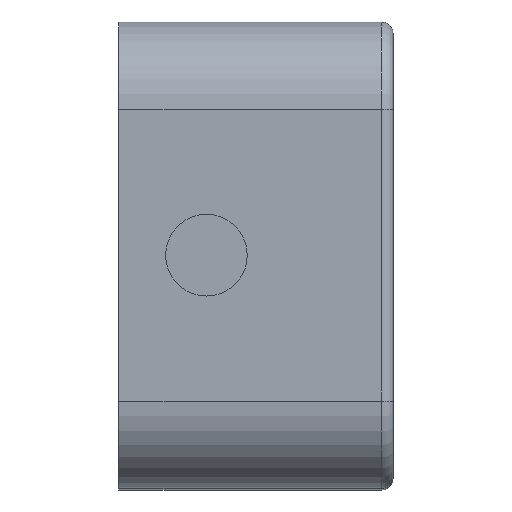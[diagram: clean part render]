
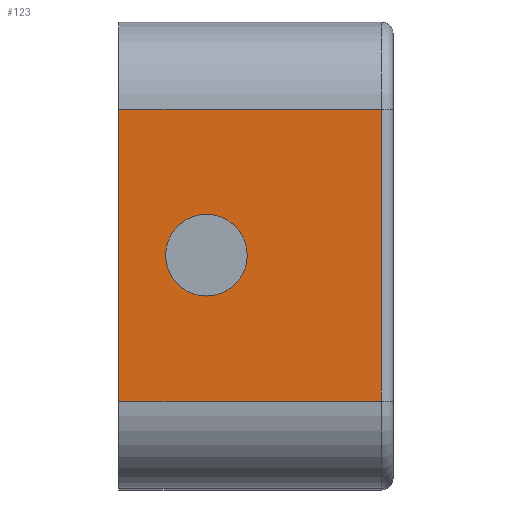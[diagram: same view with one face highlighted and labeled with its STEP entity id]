
A CAD part, top view. The second image highlights one B-rep face of the part: STEP entity #123.
In plain terms, the highlighted planar face has unit normal (0, 0, 1).
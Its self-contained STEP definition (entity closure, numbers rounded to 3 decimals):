
#123 = ADVANCED_FACE( '', ( #266, #267 ), #268, .T. );
#266 = FACE_BOUND( '', #427, .T. );
#267 = FACE_OUTER_BOUND( '', #428, .T. );
#268 = PLANE( '', #429 );
#427 = EDGE_LOOP( '', ( #706 ) );
#428 = EDGE_LOOP( '', ( #707, #708, #709, #710 ) );
#429 = AXIS2_PLACEMENT_3D( '', #711, #712, #713 );
#706 = ORIENTED_EDGE( '', *, *, #977, .F. );
#707 = ORIENTED_EDGE( '', *, *, #979, .T. );
#708 = ORIENTED_EDGE( '', *, *, #980, .T. );
#709 = ORIENTED_EDGE( '', *, *, #972, .T. );
#710 = ORIENTED_EDGE( '', *, *, #981, .F. );
#711 = CARTESIAN_POINT( '', ( 0., -4., 4. ) );
#712 = DIRECTION( '', ( 0., 0., 1. ) );
#713 = DIRECTION( '', ( -1., 0., 0. ) );
#972 = EDGE_CURVE( '', #1131, #1188, #1189, .T. );
#977 = EDGE_CURVE( '', #1196, #1196, #1197, .T. );
#979 = EDGE_CURVE( '', #1199, #1200, #1201, .F. );
#980 = EDGE_CURVE( '', #1200, #1131, #1202, .T. );
#981 = EDGE_CURVE( '', #1199, #1188, #1203, .T. );
#1131 = VERTEX_POINT( '', #1425 );
#1188 = VERTEX_POINT( '', #1503 );
#1189 = LINE( '', #1504, #1505 );
#1196 = VERTEX_POINT( '', #1513 );
#1197 = CIRCLE( '', #1514, 0.7 );
#1199 = VERTEX_POINT( '', #1516 );
#1200 = VERTEX_POINT( '', #1517 );
#1201 = LINE( '', #1518, #1519 );
#1202 = LINE( '', #1520, #1521 );
#1203 = LINE( '', #1522, #1523 );
#1425 = CARTESIAN_POINT( '', ( -0.2, 2.5, 4. ) );
#1503 = CARTESIAN_POINT( '', ( -4.7, 2.5, 4. ) );
#1504 = CARTESIAN_POINT( '', ( 0., 2.5, 4. ) );
#1505 = VECTOR( '', #1748, 1000. );
#1513 = CARTESIAN_POINT( '', ( -3.2, 0.7, 4. ) );
#1514 = AXIS2_PLACEMENT_3D( '', #1756, #1757, #1758 );
#1516 = CARTESIAN_POINT( '', ( -4.7, -2.5, 4. ) );
#1517 = CARTESIAN_POINT( '', ( -0.2, -2.5, 4. ) );
#1518 = CARTESIAN_POINT( '', ( 0., -2.5, 4. ) );
#1519 = VECTOR( '', #1759, 1000. );
#1520 = CARTESIAN_POINT( '', ( -0.2, 2.5, 4. ) );
#1521 = VECTOR( '', #1760, 1000. );
#1522 = CARTESIAN_POINT( '', ( -4.7, -4., 4. ) );
#1523 = VECTOR( '', #1761, 1000. );
#1748 = DIRECTION( '', ( -1., 0., 0. ) );
#1756 = CARTESIAN_POINT( '', ( -3.2, 0., 4. ) );
#1757 = DIRECTION( '', ( 0., 0., 1. ) );
#1758 = DIRECTION( '', ( 0., 1., 0. ) );
#1759 = DIRECTION( '', ( -1., 0., 0. ) );
#1760 = DIRECTION( '', ( 0., 1., 0. ) );
#1761 = DIRECTION( '', ( 0., 1., 0. ) );
